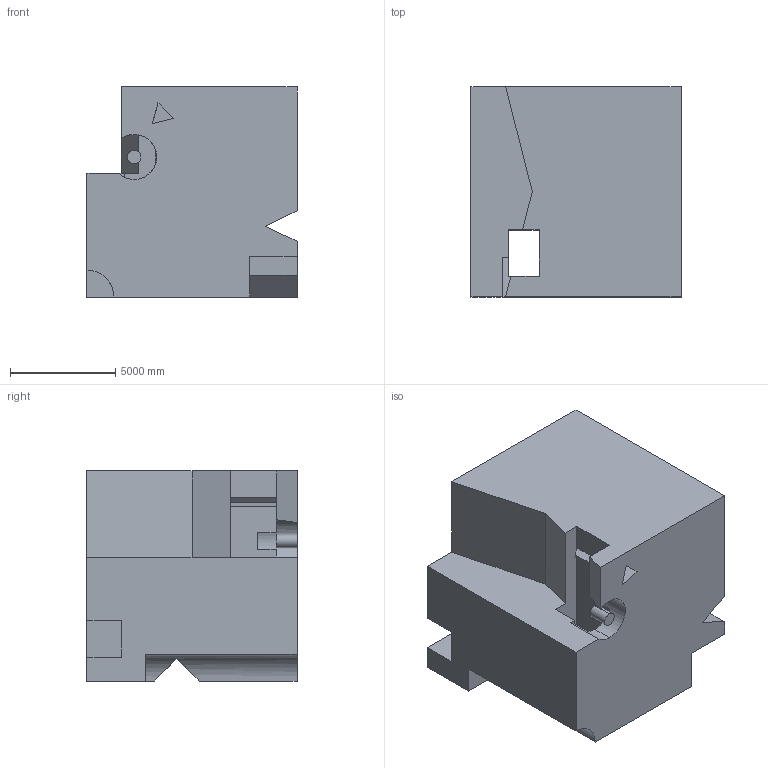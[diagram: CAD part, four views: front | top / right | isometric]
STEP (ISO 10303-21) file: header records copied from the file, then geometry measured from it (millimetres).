
FILE_DESCRIPTION (( 'STEP AP203' ), '1' );
FILE_NAME ('1893.STEP', '2022-08-23T09:10:05', ( 'user' ), ( '' ), 'SwSTEP 2.0', 'SolidWorks 2021', '' );
FILE_SCHEMA (( 'CONFIG_CONTROL_DESIGN' ));
Length unit declared in the file: centimetre
Products named in the file (1): 1893
Bounding box: 10000 x 10000 x 10000 mm (x, y, z)
Volume: 813786312882.8 mm3; surface area: 669187812.4 mm2
Topology: 2 solids, 2 shells, 44 faces, 126 edges, 84 vertices
Faces by surface type: plane 38, cylinder 6
Entity records: 1508 total; most frequent: CARTESIAN_POINT 264, ORIENTED_EDGE 252, DIRECTION 228, EDGE_CURVE 126, LINE 108, VECTOR 108, VERTEX_POINT 84, AXIS2_PLACEMENT_3D 60
